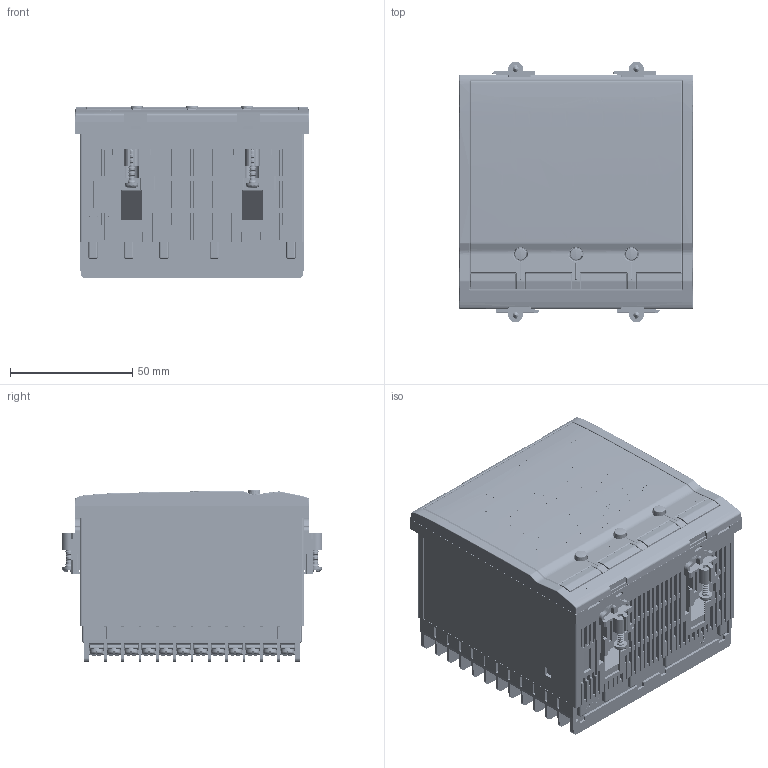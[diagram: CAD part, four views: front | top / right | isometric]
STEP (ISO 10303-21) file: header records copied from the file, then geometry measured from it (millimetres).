
FILE_DESCRIPTION (( 'STEP AP214' ), '1' );
FILE_NAME ('FB900_WEB.STEP', '2024-03-27T23:46:10', ( '' ), ( '' ), 'SwSTEP 2.0', 'SolidWorks 2021', '' );
FILE_SCHEMA (( 'AUTOMOTIVE_DESIGN' ));
Length unit declared in the file: millimetre
Products named in the file (4): KFB900-36_WEB; FB取付具_WEB; FB900_WEB; FB900(基本設計)_WEB
Assembly tree (6 placements, depth 2):
  FB900_WEB
    FB900(基本設計)_WEB
    KFB900-36_WEB
    FB取付具_WEB  x4
Bounding box: 96 x 106.1 x 70.7 mm (x, y, z)
Volume: 539967.8 mm3; surface area: 95277.9 mm2
Topology: 11 solids, 11 shells, 12619 faces, 34613 edges, 22364 vertices
Faces by surface type: plane 6949, bspline 3141, cylinder 1882, cone 297, sphere 234, torus 116
Entity records: 545079 total; most frequent: CARTESIAN_POINT 166063, ORIENTED_EDGE 61644, DIRECTION 42516, EDGE_CURVE 30822, VERTEX_POINT 20054, VECTOR 18068, LINE 18068, AXIS2_PLACEMENT_3D 12224
